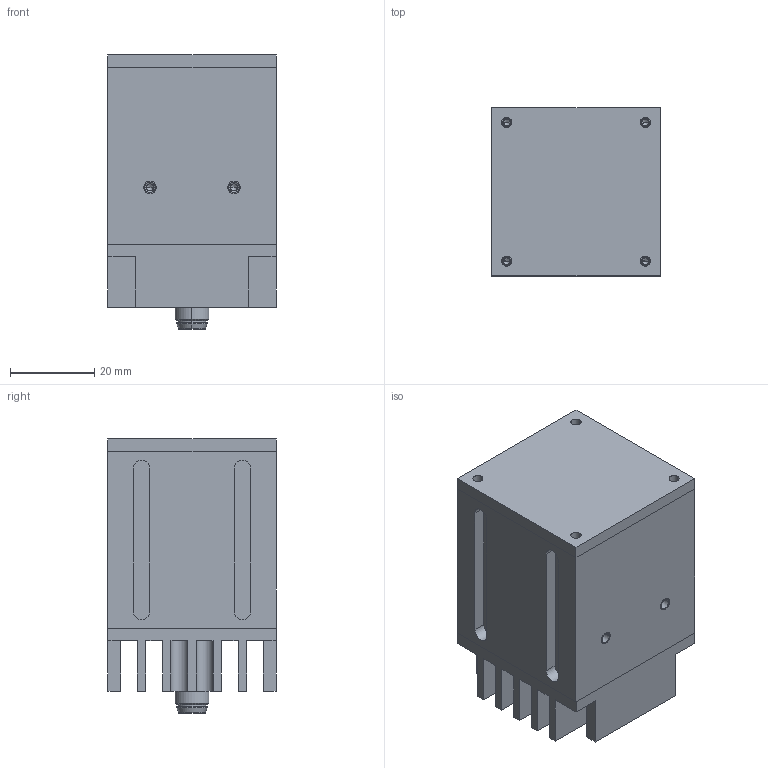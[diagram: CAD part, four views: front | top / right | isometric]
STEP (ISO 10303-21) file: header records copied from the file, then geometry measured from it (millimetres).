
FILE_DESCRIPTION(('STEP AP214'),'1');
FILE_NAME('Z:/Spaceclaim-Entwürfe/COMPACT-SPOT-V2/COMPACT-SPOT.stp','2015-04-20T09:20:57',(' '),(' '),'Spatial InterOp 3D',' ',' ');
FILE_SCHEMA(('automotive_design'));
Length unit declared in the file: millimetre
Products named in the file (8): COMPACT-SPOT Fronten; Acryl-Fronten; COMPACT-SPOT; Rückplatte; COMPACT-SPOT Rückplatte; Gehäuse; COMPACT-SPOT Gehäuse; M8-Einbaustecker
Assembly tree (7 placements, depth 3):
  COMPACT-SPOT
    COMPACT-SPOT Fronten
      Acryl-Fronten
    Rückplatte
      COMPACT-SPOT Rückplatte
    Gehäuse
      COMPACT-SPOT Gehäuse
    M8-Einbaustecker
Bounding box: 40 x 40 x 65.2 mm (x, y, z)
Volume: 47981.2 mm3; surface area: 30607.9 mm2
Topology: 4 solids, 46 shells, 355 faces, 998 edges, 695 vertices
Faces by surface type: cylinder 184, plane 117, cone 38, bspline 8, torus 4, sphere 4
Entity records: 15649 total; most frequent: CARTESIAN_POINT 3297, DIRECTION 2030, ORIENTED_EDGE 1736, EDGE_CURVE 962, AXIS2_PLACEMENT_3D 802, VERTEX_POINT 695, CIRCLE 441, EDGE_LOOP 427
